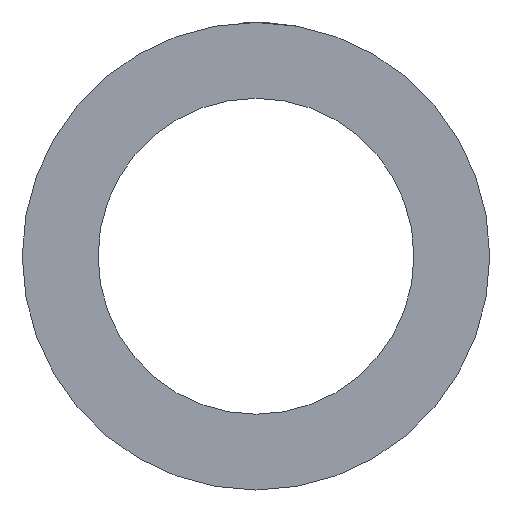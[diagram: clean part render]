
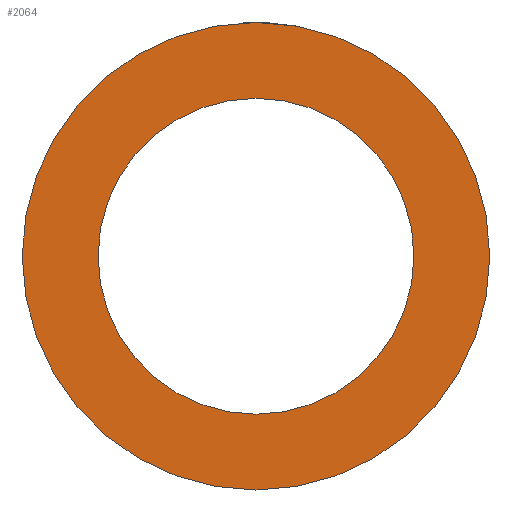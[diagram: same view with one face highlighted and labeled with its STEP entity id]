
A CAD part, left-side view. The second image highlights one B-rep face of the part: STEP entity #2064.
In plain terms, the highlighted planar face has unit normal (-1, 0, 0).
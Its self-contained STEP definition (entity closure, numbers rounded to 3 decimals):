
#57 = AXIS2_PLACEMENT_3D ( 'NONE', #1491, #1479, #1440 ) ;
#241 = ORIENTED_EDGE ( 'NONE', *, *, #1736, .T. ) ;
#421 = CARTESIAN_POINT ( 'NONE',  ( 0., 0., 215. ) ) ;
#649 = AXIS2_PLACEMENT_3D ( 'NONE', #1949, #1942, #1928 ) ;
#785 = FACE_BOUND ( 'NONE', #3151, .T. ) ;
#874 = AXIS2_PLACEMENT_3D ( 'NONE', #886, #881, #878 ) ;
#878 = DIRECTION ( 'NONE',  ( 0., 0., 1. ) ) ;
#881 = DIRECTION ( 'NONE',  ( -1., 0., 0. ) ) ;
#886 = CARTESIAN_POINT ( 'NONE',  ( 0., 0., 0. ) ) ;
#901 = DIRECTION ( 'NONE',  ( 0., 0., 1. ) ) ;
#913 = DIRECTION ( 'NONE',  ( -1., 0., 0. ) ) ;
#971 = CARTESIAN_POINT ( 'NONE',  ( 0., 0., -215. ) ) ;
#1022 = VERTEX_POINT ( 'NONE', #2852 ) ;
#1081 = CIRCLE ( 'NONE', #874, 215. ) ;
#1215 = FACE_OUTER_BOUND ( 'NONE', #2963, .T. ) ;
#1235 = ORIENTED_EDGE ( 'NONE', *, *, #1858, .F. ) ;
#1440 = DIRECTION ( 'NONE',  ( 0., 0., -1. ) ) ;
#1479 = DIRECTION ( 'NONE',  ( 1., 0., 0. ) ) ;
#1491 = CARTESIAN_POINT ( 'NONE',  ( 0., 145.3, 0. ) ) ;
#1697 = VERTEX_POINT ( 'NONE', #971 ) ;
#1736 = EDGE_CURVE ( 'NONE', #1783, #1697, #1081, .T. ) ;
#1783 = VERTEX_POINT ( 'NONE', #421 ) ;
#1858 = EDGE_CURVE ( 'NONE', #1022, #2133, #2943, .T. ) ;
#1928 = DIRECTION ( 'NONE',  ( 0., 0., 1. ) ) ;
#1942 = DIRECTION ( 'NONE',  ( -1., 0., 0. ) ) ;
#1949 = CARTESIAN_POINT ( 'NONE',  ( 0., 0., 0. ) ) ;
#2003 = CIRCLE ( 'NONE', #2324, 215. ) ;
#2064 = ADVANCED_FACE ( 'NONE', ( #785, #1215 ), #2653, .F. ) ;
#2126 = ORIENTED_EDGE ( 'NONE', *, *, #2195, .F. ) ;
#2133 = VERTEX_POINT ( 'NONE', #2992 ) ;
#2195 = EDGE_CURVE ( 'NONE', #2133, #1022, #2215, .T. ) ;
#2198 = EDGE_CURVE ( 'NONE', #1697, #1783, #2003, .T. ) ;
#2215 = CIRCLE ( 'NONE', #2376, 145.3 ) ;
#2324 = AXIS2_PLACEMENT_3D ( 'NONE', #3083, #913, #901 ) ;
#2376 = AXIS2_PLACEMENT_3D ( 'NONE', #3110, #3106, #3099 ) ;
#2653 = PLANE ( 'NONE',  #57 ) ;
#2852 = CARTESIAN_POINT ( 'NONE',  ( 0., 0., -145.3 ) ) ;
#2943 = CIRCLE ( 'NONE', #649, 145.3 ) ;
#2963 = EDGE_LOOP ( 'NONE', ( #241, #3177 ) ) ;
#2992 = CARTESIAN_POINT ( 'NONE',  ( 0., 0., 145.3 ) ) ;
#3083 = CARTESIAN_POINT ( 'NONE',  ( 0., 0., 0. ) ) ;
#3099 = DIRECTION ( 'NONE',  ( 0., 0., 1. ) ) ;
#3106 = DIRECTION ( 'NONE',  ( -1., 0., 0. ) ) ;
#3110 = CARTESIAN_POINT ( 'NONE',  ( 0., 0., 0. ) ) ;
#3151 = EDGE_LOOP ( 'NONE', ( #2126, #1235 ) ) ;
#3177 = ORIENTED_EDGE ( 'NONE', *, *, #2198, .T. ) ;
